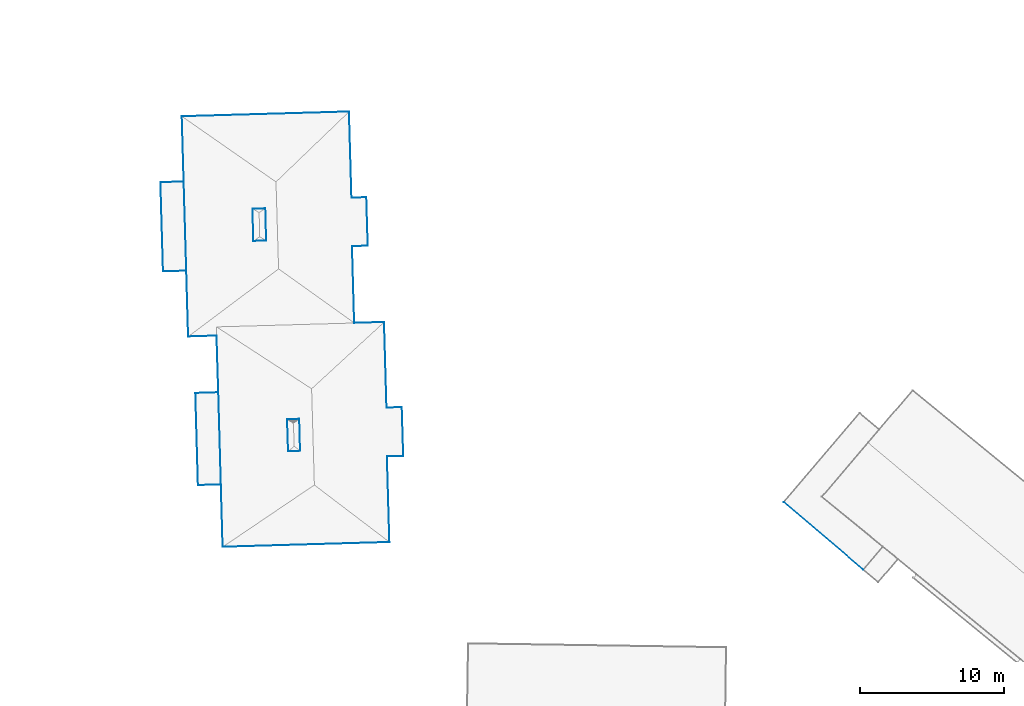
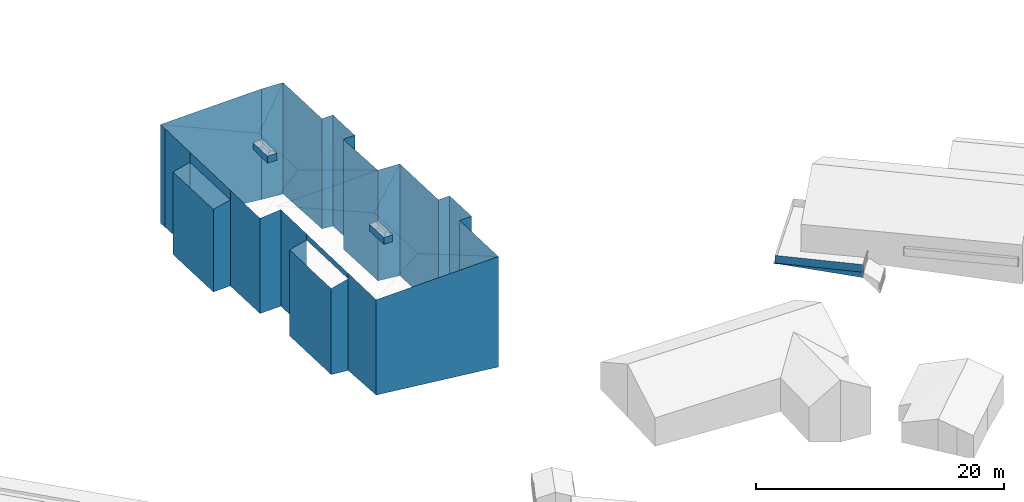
# Not in any storey, part 66 of 136: 39 walls.
"""IFC4 building model written with IfcOpenShell, lengths in metres."""

from ifc_helpers import new_model, entity, si_unit, converted_unit, frame, origin, place, context, subcontext, project, spatial, face_set, surface_model, element, save


model = new_model("IFC4")

# Units and contexts
model_context = context("Model", 3, precision=1e-05, world=origin())
body_context = subcontext(model_context, "Body", "Model", "MODEL_VIEW")
ifc_project = project(units=[converted_unit("PLANEANGLEUNIT", "DEGREE", entity("IfcRatioMeasure", 0.0174532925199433), si_unit("PLANEANGLEUNIT", "RADIAN"), dimensions=[0, 0, 0, 0, 0, 0, 0]), si_unit("AREAUNIT", "SQUARE_METRE"), si_unit("LENGTHUNIT", "METRE")], contexts=[model_context])

# Site, building
site_placement = place(None, origin())
site = spatial("IfcSite", under=ifc_project, at=site_placement, Name="_site")
building_1_placement = place(site_placement, origin())
building_1 = spatial("IfcBuilding", under=site, at=building_1_placement, Name="_building")

# Walls
wall_1_placement = place(building_1_placement, origin())
element("IfcWall", 1, at=wall_1_placement, inside=building_1, Name="Wall", PredefinedType="NOTDEFINED", context=body_context, shape_type="SurfaceModel", body=[
    surface_model("IfcFaceBasedSurfaceModel", [(122.14, 155.54, 53.5), (124.18, 155.601, 53.37), (124.18, 155.601, 42.398), (122.14, 155.54, 42.609)], [face_set([[[0, 1, 2, 3]]])]),
])
wall_2_placement = place(building_1_placement, origin())
element("IfcWall", 2, at=wall_2_placement, inside=building_1, Name="Wall", PredefinedType="NOTDEFINED", context=body_context, shape_type="SurfaceModel", body=[
    surface_model("IfcFaceBasedSurfaceModel", [(112.72, 150.75, 53.46), (112.61, 154.61, 53.5), (112.61, 154.61, 43.811), (112.72, 150.75, 43.866)], [face_set([[[0, 1, 2, 3]]])]),
])
wall_3_placement = place(building_1_placement, origin())
element("IfcWall", 3, at=wall_3_placement, inside=building_1, Name="Wall", PredefinedType="NOTDEFINED", context=body_context, shape_type="SurfaceModel", body=[
    surface_model("IfcFaceBasedSurfaceModel", [(124.39, 146.271, 53.37), (124.54, 140.95, 53.5), (124.54, 140.95, 42.617), (124.39, 146.271, 42.577)], [face_set([[[0, 1, 2, 3]]])]),
])
wall_4_placement = place(building_1_placement, origin())
element("IfcWall", 4, at=wall_4_placement, inside=building_1, Name="Wall", PredefinedType="NOTDEFINED", context=body_context, shape_type="SurfaceModel", body=[
    surface_model("IfcFaceBasedSurfaceModel", [(112.9, 144.57, 52.47), (111.29, 144.521, 52.12), (111.29, 144.521, 44.0), (112.9, 144.57, 44.0)], [face_set([[[0, 1, 2, 3]]])]),
])
wall_5_placement = place(building_1_placement, origin())
element("IfcWall", 5, at=wall_5_placement, inside=building_1, Name="Wall", PredefinedType="NOTDEFINED", context=body_context, shape_type="SurfaceModel", body=[
    surface_model("IfcFaceBasedSurfaceModel", [(118.38, 148.89, 53.87), (118.44, 146.65, 53.87), (118.44, 146.65, 53.152), (118.38, 148.89, 53.165)], [face_set([[[0, 1, 2, 3]]])]),
])
wall_6_placement = place(building_1_placement, origin())
element("IfcWall", 6, at=wall_6_placement, inside=building_1, Name="Wall", PredefinedType="NOTDEFINED", context=body_context, shape_type="SurfaceModel", body=[
    surface_model("IfcFaceBasedSurfaceModel", [(125.48, 146.3, 53.37), (124.39, 146.271, 53.37), (124.39, 146.271, 42.577), (125.48, 146.3, 42.459)], [face_set([[[0, 1, 2, 3]]])]),
])
wall_7_placement = place(building_1_placement, origin())
element("IfcWall", 7, at=wall_7_placement, inside=building_1, Name="Wall", PredefinedType="NOTDEFINED", context=body_context, shape_type="SurfaceModel", body=[
    surface_model("IfcFaceBasedSurfaceModel", [(112.61, 154.61, 53.5), (112.59, 155.271, 53.5), (112.59, 155.271, 43.777), (112.61, 154.61, 43.811)], [face_set([[[0, 1, 2, 3]]])]),
])
wall_8_placement = place(building_1_placement, origin())
element("IfcWall", 8, at=wall_8_placement, inside=building_1, Name="Wall", PredefinedType="NOTDEFINED", context=body_context, shape_type="SurfaceModel", body=[
    surface_model("IfcFaceBasedSurfaceModel", [(113.03, 140.01, 53.37), (112.9, 144.57, 53.41), (112.9, 144.57, 44.0), (113.03, 140.01, 44.0)], [face_set([[[0, 1, 2, 3]]])]),
])
wall_9_placement = place(building_1_placement, origin())
element("IfcWall", 9, at=wall_9_placement, inside=building_1, Name="Wall", PredefinedType="NOTDEFINED", context=body_context, shape_type="SurfaceModel", body=[
    surface_model("IfcFaceBasedSurfaceModel", [(112.59, 155.271, 53.5), (122.14, 155.54, 53.5), (122.14, 155.54, 42.609), (112.59, 155.271, 43.777)], [face_set([[[0, 1, 2, 3]]])]),
])
wall_10_placement = place(building_1_placement, origin())
element("IfcWall", 10, at=wall_10_placement, inside=building_1, Name="Wall", PredefinedType="NOTDEFINED", context=body_context, shape_type="SurfaceModel", body=[
    surface_model("IfcFaceBasedSurfaceModel", [(118.44, 146.65, 53.87), (117.55, 146.63, 53.87), (117.55, 146.63, 53.197), (118.44, 146.65, 53.152)], [face_set([[[0, 1, 2, 3]]])]),
])
wall_11_placement = place(building_1_placement, origin())
element("IfcWall", 11, at=wall_11_placement, inside=building_1, Name="Wall", PredefinedType="NOTDEFINED", context=body_context, shape_type="SurfaceModel", body=[
    surface_model("IfcFaceBasedSurfaceModel", [(111.11, 150.7, 52.12), (112.72, 150.75, 52.47), (112.72, 150.75, 43.866), (111.11, 150.7, 44.0)], [face_set([[[0, 1, 2, 3]]])]),
])
wall_12_placement = place(building_1_placement, origin())
element("IfcWall", 12, at=wall_12_placement, inside=building_1, Name="Wall", PredefinedType="NOTDEFINED", context=body_context, shape_type="SurfaceModel", body=[
    surface_model("IfcFaceBasedSurfaceModel", [(124.35, 149.63, 53.37), (125.38, 149.66, 53.37), (125.38, 149.66, 42.429), (124.35, 149.63, 42.532)], [face_set([[[0, 1, 2, 3]]])]),
])
wall_13_placement = place(building_1_placement, origin())
element("IfcWall", 13, at=wall_13_placement, inside=building_1, Name="Wall", PredefinedType="NOTDEFINED", context=body_context, shape_type="SurfaceModel", body=[
    surface_model("IfcFaceBasedSurfaceModel", [(111.29, 144.521, 52.12), (111.11, 150.7, 52.12), (111.11, 150.7, 44.0), (111.29, 144.521, 44.0)], [face_set([[[0, 1, 2, 3]]])]),
])
wall_14_placement = place(building_1_placement, origin())
element("IfcWall", 14, at=wall_14_placement, inside=building_1, Name="Wall", PredefinedType="NOTDEFINED", context=body_context, shape_type="SurfaceModel", body=[
    surface_model("IfcFaceBasedSurfaceModel", [(112.9, 144.57, 53.41), (112.72, 150.75, 53.46), (112.72, 150.75, 52.47), (112.9, 144.57, 52.47)], [face_set([[[0, 1, 2, 3]]])]),
])
wall_15_placement = place(building_1_placement, origin())
element("IfcWall", 15, at=wall_15_placement, inside=building_1, Name="Wall", PredefinedType="NOTDEFINED", context=body_context, shape_type="SurfaceModel", body=[
    surface_model("IfcFaceBasedSurfaceModel", [(117.49, 148.87, 53.87), (118.38, 148.89, 53.87), (118.38, 148.89, 53.165), (117.49, 148.87, 53.21)], [face_set([[[0, 1, 2, 3]]])]),
])
wall_16_placement = place(building_1_placement, origin())
element("IfcWall", 16, at=wall_16_placement, inside=building_1, Name="Wall", PredefinedType="NOTDEFINED", context=body_context, shape_type="SurfaceModel", body=[
    surface_model("IfcFaceBasedSurfaceModel", [(125.38, 149.66, 53.37), (125.48, 146.3, 53.37), (125.48, 146.3, 42.459), (125.38, 149.66, 42.429)], [face_set([[[0, 1, 2, 3]]])]),
])
wall_17_placement = place(building_1_placement, origin())
element("IfcWall", 17, at=wall_17_placement, inside=building_1, Name="Wall", PredefinedType="NOTDEFINED", context=body_context, shape_type="SurfaceModel", body=[
    surface_model("IfcFaceBasedSurfaceModel", [(124.18, 155.601, 53.37), (124.35, 149.63, 53.37), (124.35, 149.63, 42.532), (124.18, 155.601, 42.398)], [face_set([[[0, 1, 2, 3]]])]),
])
wall_18_placement = place(building_1_placement, origin())
element("IfcWall", 18, at=wall_18_placement, inside=building_1, Name="Wall", PredefinedType="NOTDEFINED", context=body_context, shape_type="SurfaceModel", body=[
    surface_model("IfcFaceBasedSurfaceModel", [(117.55, 146.63, 53.87), (117.49, 148.87, 53.87), (117.49, 148.87, 53.21), (117.55, 146.63, 53.197)], [face_set([[[0, 1, 2, 3]]])]),
])
wall_19_placement = place(building_1_placement, origin())
element("IfcWall", 19, at=wall_19_placement, inside=building_1, Name="Wall", PredefinedType="NOTDEFINED", context=body_context, shape_type="SurfaceModel", body=[
    surface_model("IfcFaceBasedSurfaceModel", [(115.0, 140.07, 53.5), (113.03, 140.01, 53.37), (113.03, 140.01, 44.0), (115.0, 140.07, 44.0)], [face_set([[[0, 1, 2, 3]]])]),
])

# Building
building_2_placement = place(site_placement, origin())
building_2 = spatial("IfcBuilding", under=site, at=building_2_placement, Name="_building")

# Walls
wall_20_placement = place(building_2_placement, origin())
element("IfcWall", 20, at=wall_20_placement, inside=building_2, Name="Wall", PredefinedType="NOTDEFINED", context=body_context, shape_type="SurfaceModel", body=[
    surface_model("IfcFaceBasedSurfaceModel", [(124.54, 140.95, 53.5), (126.61, 141.01, 53.37), (126.61, 141.01, 42.364), (124.54, 140.95, 42.617)], [face_set([[[0, 1, 2, 3]]])]),
])
wall_21_placement = place(building_2_placement, origin())
element("IfcWall", 21, at=wall_21_placement, inside=building_2, Name="Wall", PredefinedType="NOTDEFINED", context=body_context, shape_type="SurfaceModel", body=[
    surface_model("IfcFaceBasedSurfaceModel", [(126.61, 141.01, 53.37), (126.78, 135.08, 53.37), (126.78, 135.08, 42.395), (126.61, 141.01, 42.364)], [face_set([[[0, 1, 2, 3]]])]),
])
wall_22_placement = place(building_2_placement, origin())
element("IfcWall", 22, at=wall_22_placement, inside=building_2, Name="Wall", PredefinedType="NOTDEFINED", context=body_context, shape_type="SurfaceModel", body=[
    surface_model("IfcFaceBasedSurfaceModel", [(120.73, 134.3, 53.87), (120.79, 132.08, 53.87), (120.79, 132.08, 53.158), (120.73, 134.3, 53.169)], [face_set([[[0, 1, 2, 3]]])]),
])
wall_23_placement = place(building_2_placement, origin())
element("IfcWall", 23, at=wall_23_placement, inside=building_2, Name="Wall", PredefinedType="NOTDEFINED", context=body_context, shape_type="SurfaceModel", body=[
    surface_model("IfcFaceBasedSurfaceModel", [(126.98, 125.76, 53.37), (115.42, 125.43, 53.37), (115.42, 125.43, 43.987), (126.98, 125.76, 42.503)], [face_set([[[0, 1, 2, 3]]])]),
])
wall_24_placement = place(building_2_placement, origin())
element("IfcWall", 24, at=wall_24_placement, inside=building_2, Name="Wall", PredefinedType="NOTDEFINED", context=body_context, shape_type="SurfaceModel", body=[
    surface_model("IfcFaceBasedSurfaceModel", [(115.3, 129.75, 53.41), (115.12, 136.14, 53.46), (115.12, 136.14, 52.85), (115.3, 129.75, 52.85)], [face_set([[[0, 1, 2, 3]]])]),
])
wall_25_placement = place(building_2_placement, origin())
element("IfcWall", 25, at=wall_25_placement, inside=building_2, Name="Wall", PredefinedType="NOTDEFINED", context=body_context, shape_type="SurfaceModel", body=[
    surface_model("IfcFaceBasedSurfaceModel", [(120.79, 132.08, 53.87), (119.96, 132.05, 53.87), (119.96, 132.05, 53.199), (120.79, 132.08, 53.158)], [face_set([[[0, 1, 2, 3]]])]),
])
wall_26_placement = place(building_2_placement, origin())
element("IfcWall", 26, at=wall_26_placement, inside=building_2, Name="Wall", PredefinedType="NOTDEFINED", context=body_context, shape_type="SurfaceModel", body=[
    surface_model("IfcFaceBasedSurfaceModel", [(115.3, 129.75, 52.85), (113.71, 129.71, 52.47), (113.71, 129.71, 44.0), (115.3, 129.75, 43.841)], [face_set([[[0, 1, 2, 3]]])]),
])
wall_27_placement = place(building_2_placement, origin())
element("IfcWall", 27, at=wall_27_placement, inside=building_2, Name="Wall", PredefinedType="NOTDEFINED", context=body_context, shape_type="SurfaceModel", body=[
    surface_model("IfcFaceBasedSurfaceModel", [(113.53, 136.09, 52.47), (115.12, 136.14, 52.85), (115.12, 136.14, 44.0), (113.53, 136.09, 44.0)], [face_set([[[0, 1, 2, 3]]])]),
])
wall_28_placement = place(building_2_placement, origin())
element("IfcWall", 28, at=wall_28_placement, inside=building_2, Name="Wall", PredefinedType="NOTDEFINED", context=body_context, shape_type="SurfaceModel", body=[
    surface_model("IfcFaceBasedSurfaceModel", [(113.71, 129.71, 52.47), (113.53, 136.09, 52.47), (113.53, 136.09, 44.0), (113.71, 129.71, 44.0)], [face_set([[[0, 1, 2, 3]]])]),
])
wall_29_placement = place(building_2_placement, origin())
element("IfcWall", 29, at=wall_29_placement, inside=building_2, Name="Wall", PredefinedType="NOTDEFINED", context=body_context, shape_type="SurfaceModel", body=[
    surface_model("IfcFaceBasedSurfaceModel", [(119.96, 132.05, 53.87), (119.89, 134.271, 53.87), (119.89, 134.271, 53.211), (119.96, 132.05, 53.199)], [face_set([[[0, 1, 2, 3]]])]),
])
wall_30_placement = place(building_2_placement, origin())
element("IfcWall", 30, at=wall_30_placement, inside=building_2, Name="Wall", PredefinedType="NOTDEFINED", context=body_context, shape_type="SurfaceModel", body=[
    surface_model("IfcFaceBasedSurfaceModel", [(119.89, 134.271, 53.87), (120.73, 134.3, 53.87), (120.73, 134.3, 53.169), (119.89, 134.271, 53.211)], [face_set([[[0, 1, 2, 3]]])]),
])
wall_31_placement = place(building_2_placement, origin())
element("IfcWall", 31, at=wall_31_placement, inside=building_2, Name="Wall", PredefinedType="NOTDEFINED", context=body_context, shape_type="SurfaceModel", body=[
    surface_model("IfcFaceBasedSurfaceModel", [(115.12, 136.14, 53.46), (115.0, 140.07, 53.5), (115.0, 140.07, 44.0), (115.12, 136.14, 44.0)], [face_set([[[0, 1, 2, 3]]])]),
])
wall_32_placement = place(building_2_placement, origin())
element("IfcWall", 32, at=wall_32_placement, inside=building_2, Name="Wall", PredefinedType="NOTDEFINED", context=body_context, shape_type="SurfaceModel", body=[
    surface_model("IfcFaceBasedSurfaceModel", [(115.42, 125.43, 53.37), (115.3, 129.75, 53.41), (115.3, 129.75, 43.841), (115.42, 125.43, 43.987)], [face_set([[[0, 1, 2, 3]]])]),
])
wall_33_placement = place(building_2_placement, origin())
element("IfcWall", 33, at=wall_33_placement, inside=building_2, Name="Wall", PredefinedType="NOTDEFINED", context=body_context, shape_type="SurfaceModel", body=[
    surface_model("IfcFaceBasedSurfaceModel", [(126.81, 131.7, 53.37), (126.98, 125.76, 53.37), (126.98, 125.76, 42.503), (126.81, 131.7, 42.477)], [face_set([[[0, 1, 2, 3]]])]),
])
wall_34_placement = place(building_2_placement, origin())
element("IfcWall", 34, at=wall_34_placement, inside=building_2, Name="Wall", PredefinedType="NOTDEFINED", context=body_context, shape_type="SurfaceModel", body=[
    surface_model("IfcFaceBasedSurfaceModel", [(127.84, 135.11, 53.37), (127.94, 131.73, 53.37), (127.94, 131.73, 42.352), (127.84, 135.11, 42.242)], [face_set([[[0, 1, 2, 3]]])]),
])
wall_35_placement = place(building_2_placement, origin())
element("IfcWall", 35, at=wall_35_placement, inside=building_2, Name="Wall", PredefinedType="NOTDEFINED", context=body_context, shape_type="SurfaceModel", body=[
    surface_model("IfcFaceBasedSurfaceModel", [(126.78, 135.08, 53.37), (127.84, 135.11, 53.37), (127.84, 135.11, 42.242), (126.78, 135.08, 42.395)], [face_set([[[0, 1, 2, 3]]])]),
])
wall_36_placement = place(building_2_placement, origin())
element("IfcWall", 36, at=wall_36_placement, inside=building_2, Name="Wall", PredefinedType="NOTDEFINED", context=body_context, shape_type="SurfaceModel", body=[
    surface_model("IfcFaceBasedSurfaceModel", [(127.94, 131.73, 53.37), (126.81, 131.7, 53.37), (126.81, 131.7, 42.477), (127.94, 131.73, 42.352)], [face_set([[[0, 1, 2, 3]]])]),
])

# Building
building_3_placement = place(site_placement, origin())
building_3 = spatial("IfcBuilding", under=site, at=building_3_placement, Name="_building")

# Walls
for number, where, name in (
    (37, (0.0, 0.0, 0.0), "Wall"),
    (38, (0.0, 0.0, 0.0), "Wall"),
):
    element("IfcWall", number, at=place(building_3_placement, frame(where)), inside=building_3, Name=name, PredefinedType="NOTDEFINED", context=body_context, shape_type="SurfaceModel", body=[
        surface_model("IfcFaceBasedSurfaceModel", [(159.83, 123.84, 41.48), (154.31, 128.54, 41.48), (154.31, 128.54, 42.23), (159.83, 123.84, 42.23)], [face_set([[[0, 1, 2, 3]]])]),
    ])
wall_37_placement = place(building_3_placement, origin())
element("IfcWall", 39, at=wall_37_placement, inside=building_3, Name="Wall", PredefinedType="NOTDEFINED", context=body_context, shape_type="SurfaceModel", body=[
    surface_model("IfcFaceBasedSurfaceModel", [(159.83, 123.84, 41.48), (154.31, 128.54, 41.48), (154.31, 128.54, 41.44), (159.83, 123.84, 40.95)], [face_set([[[0, 1, 2, 3]]])]),
])

save(model, "model.ifc")
